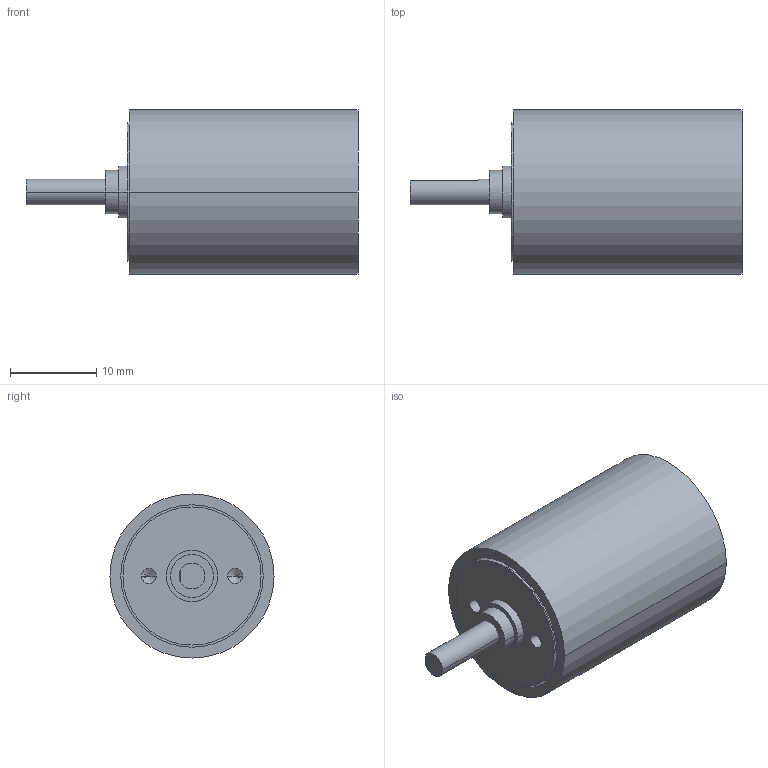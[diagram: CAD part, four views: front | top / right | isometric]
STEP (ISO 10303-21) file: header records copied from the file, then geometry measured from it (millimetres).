
FILE_DESCRIPTION((''),'2;1');
FILE_NAME('1682081','2016-10-04T',('mmagvisi'),(''),'CREO PARAMETRIC BY PTC INC, 2016050','CREO PARAMETRIC BY PTC INC, 2016050','');
FILE_SCHEMA(('CONFIG_CONTROL_DESIGN'));
Length unit declared in the file: millimetre
Products named in the file (1): 1682081
Bounding box: 38.45 x 19 x 19 mm (x, y, z)
Volume: 7014.5 mm3; surface area: 2668.8 mm2
Topology: 1 solids, 1 shells, 35 faces, 78 edges, 50 vertices
Faces by surface type: cylinder 20, plane 11, cone 4
Entity records: 1071 total; most frequent: DIRECTION 184, CARTESIAN_POINT 164, ORIENTED_EDGE 148, AXIS2_PLACEMENT_3D 77, EDGE_CURVE 74, COLOUR_RGB 58, VERTEX_POINT 50, EDGE_LOOP 44
